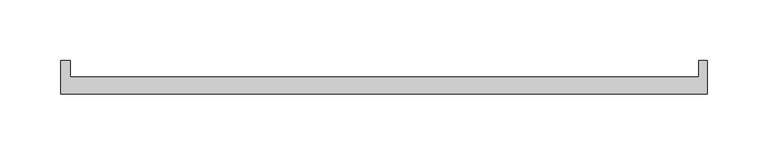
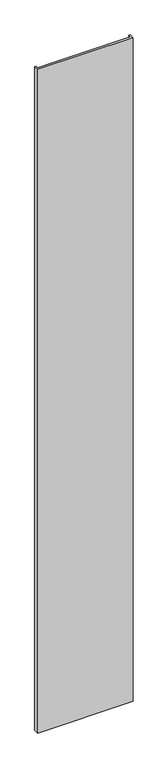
"""IFC4 building model written with IfcOpenShell, lengths in millimetres: plate geometry, Walls_Curtain-Walls_Danpal_AIRPT : Walls_Curtain-Walls_Danpal_AIRPT."""

from ifc_helpers import new_model, si_unit, origin, origin_with_axes, place, context, project, spatial, polyline, outline, extrude, source, transform, mapped, element, save


def plate_11f4e84c(model_context):
    return source(origin(), model_context, "Body", "SweptSolid", [
        extrude(outline(polyline([(-257.3806431, 14.1228126), (258.0762525, 14.1228126), (258.0762525, 27.3924397), (265.0762525, 27.3924397), (265.0762525, 0.0), (-265.1, 0.0), (-265.1, 27.3924397), (-257.3806431, 27.3924397), (-257.3806431, 14.1228126)])), origin_with_axes(), (0.0, 0.0, 1.0), 3887.6638156),
    ])


if __name__ == "__main__":
    model = new_model("IFC4")
    model_context = context("Model", 3, world=origin())
    ifc_project = project(units=[si_unit("LENGTHUNIT", "METRE", prefix="MILLI")], contexts=[model_context])
    site = spatial("IfcSite", under=ifc_project)
    building = spatial("IfcBuilding", under=site)
    placement = place(None, origin())
    plate_shape = plate_11f4e84c(model_context)
    element("IfcPlate", 1, ObjectType="Walls_Curtain-Walls_Danpal_AIRPT : Walls_Curtain-Walls_Danpal_AIRPT", at=placement, inside=building, context=model_context, shape_type="MappedRepresentation", body=[
        mapped(plate_shape, transform((0.0, 0.0, 0.0), x_axis=(1.0, 0.0, 0.0), y_axis=(0.0, 1.0, 0.0), z_axis=(0.0, 0.0, 1.0))),
    ])
    save(model, "model.ifc")
